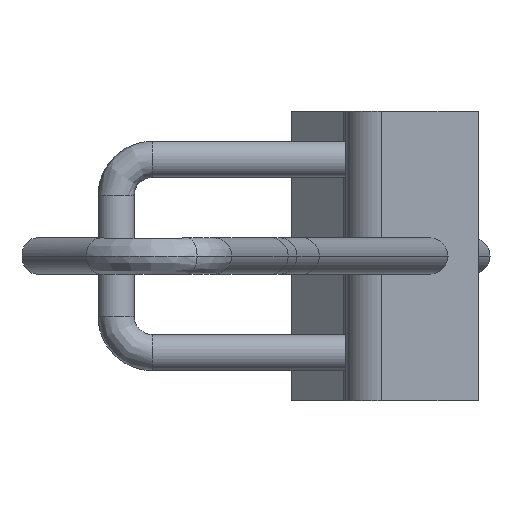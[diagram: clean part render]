
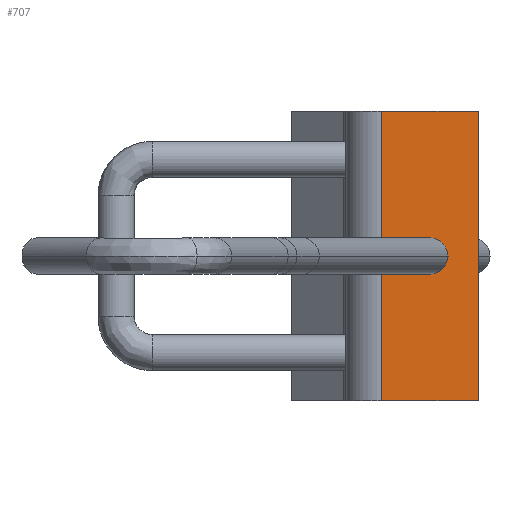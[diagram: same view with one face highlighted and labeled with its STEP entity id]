
A CAD part, left-side view. The second image highlights one B-rep face of the part: STEP entity #707.
In plain terms, the highlighted planar face has unit normal (-1, 0, 0).
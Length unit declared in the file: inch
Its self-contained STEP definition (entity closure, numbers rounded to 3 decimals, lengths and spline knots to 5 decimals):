
#389=EDGE_CURVE('',#1043,#1044,#1045,.T.);
#397=EDGE_CURVE('',#1056,#1057,#1058,.T.);
#707=ADVANCED_FACE('',(#1540,#1541),#1542,.T.);
#761=EDGE_CURVE('',#1056,#1612,#1613,.T.);
#765=EDGE_CURVE('',#1612,#1617,#1618,.T.);
#839=EDGE_CURVE('',#1057,#1617,#1710,.T.);
#983=EDGE_CURVE('',#1044,#1043,#1874,.T.);
#1043=VERTEX_POINT('',#1953);
#1044=VERTEX_POINT('',#1954);
#1045=ELLIPSE('',#1955,0.19058,0.1875);
#1056=VERTEX_POINT('',#1968);
#1057=VERTEX_POINT('',#1969);
#1058=LINE('',#1970,#1971);
#1540=FACE_OUTER_BOUND('',#2838,.T.);
#1541=FACE_BOUND('',#2839,.T.);
#1542=PLANE('',#2840);
#1612=VERTEX_POINT('',#3099);
#1613=LINE('',#3100,#3101);
#1617=VERTEX_POINT('',#3108);
#1618=LINE('',#3109,#3110);
#1710=LINE('',#3373,#3374);
#1874=ELLIPSE('',#4197,0.19058,0.1875);
#1953=CARTESIAN_POINT('',(3.52252,-0.45015,1.5));
#1954=CARTESIAN_POINT('',(3.52252,-0.83131,1.5));
#1955=AXIS2_PLACEMENT_3D('',#4250,#4251,#4252);
#1968=CARTESIAN_POINT('',(3.52252,-1.14678,0.0));
#1969=CARTESIAN_POINT('',(3.52252,-0.14678,0.0));
#1970=CARTESIAN_POINT('',(3.52252,-1.14678,0.0));
#1971=VECTOR('',#4263,1.0);
#2838=EDGE_LOOP('',(#4857,#4858,#4859,#4860));
#2839=EDGE_LOOP('',(#4861,#4862));
#2840=AXIS2_PLACEMENT_3D('',#4863,#4864,#4865);
#3099=CARTESIAN_POINT('',(3.52252,-1.14678,3.0));
#3100=CARTESIAN_POINT('',(3.52252,-1.14678,0.0));
#3101=VECTOR('',#4935,1.0);
#3108=CARTESIAN_POINT('',(3.52252,-0.14678,3.0));
#3109=CARTESIAN_POINT('',(3.52252,-1.14678,3.0));
#3110=VECTOR('',#4937,1.0);
#3373=CARTESIAN_POINT('',(3.52252,-0.14678,0.0));
#3374=VECTOR('',#5044,1.0);
#4197=AXIS2_PLACEMENT_3D('',#5213,#5214,#5215);
#4250=CARTESIAN_POINT('',(3.52252,-0.64073,1.5));
#4251=DIRECTION('',(-1.0,0.0,0.0));
#4252=DIRECTION('',(0.0,-1.0,0.0));
#4263=DIRECTION('',(0.0,1.0,0.0));
#4857=ORIENTED_EDGE('',*,*,#765,.T.);
#4858=ORIENTED_EDGE('',*,*,#839,.F.);
#4859=ORIENTED_EDGE('',*,*,#397,.F.);
#4860=ORIENTED_EDGE('',*,*,#761,.T.);
#4861=ORIENTED_EDGE('',*,*,#389,.F.);
#4862=ORIENTED_EDGE('',*,*,#983,.F.);
#4863=CARTESIAN_POINT('',(3.52252,-0.64678,0.0));
#4864=DIRECTION('',(-1.0,-0.0,0.0));
#4865=DIRECTION('',(0.0,-1.0,-0.0));
#4935=DIRECTION('',(0.0,0.0,1.0));
#4937=DIRECTION('',(0.0,1.0,0.0));
#5044=DIRECTION('',(0.0,0.0,1.0));
#5213=CARTESIAN_POINT('',(3.52252,-0.64073,1.5));
#5214=DIRECTION('',(-1.0,0.0,0.0));
#5215=DIRECTION('',(0.0,-1.0,0.0));
